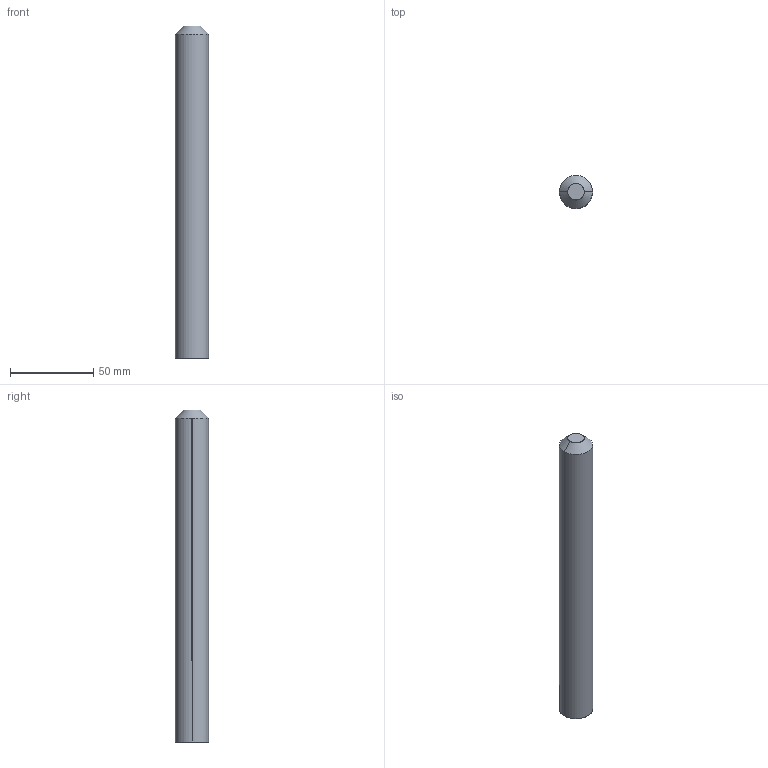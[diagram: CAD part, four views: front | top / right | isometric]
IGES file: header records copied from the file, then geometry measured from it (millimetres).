
Start section: SolidWorks IGES file using analytic representation for surfaces
Global section: file name: C:\Documents and Settings\CAD53\デスクトップ\IGES\N01916-202-1.IGS; native system: SolidWorks 2005 by SolidWorks Corporation; preprocessor: SolidWorks 2005 by SolidWorks Corporation; author: CAD53; date: 070530.100151; units: millimetre
Bounding box: 20 x 20 x 200 mm (x, y, z)
Surface area: 13248.4 mm2 (no closed solid volume)
Topology: 0 solids, 0 shells, 10 faces, 128 edges, 126 vertices
Faces by surface type: revolution 8, bspline 2
